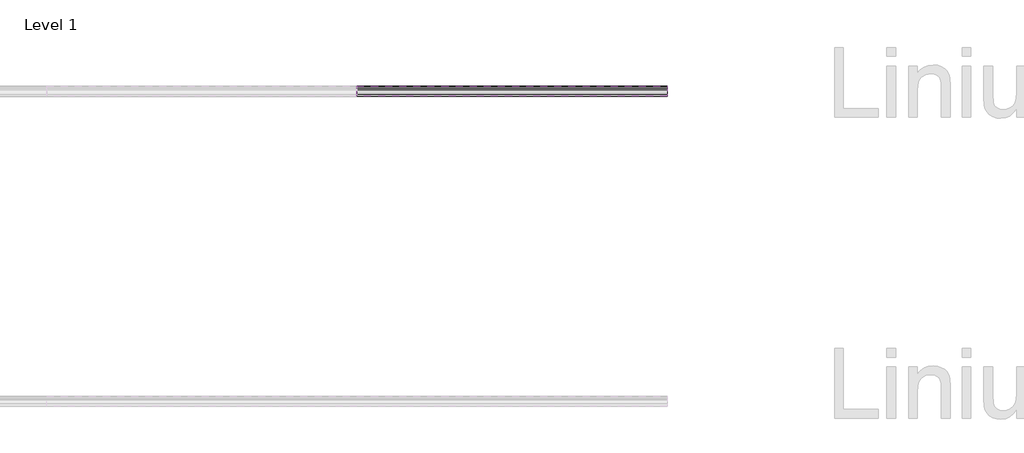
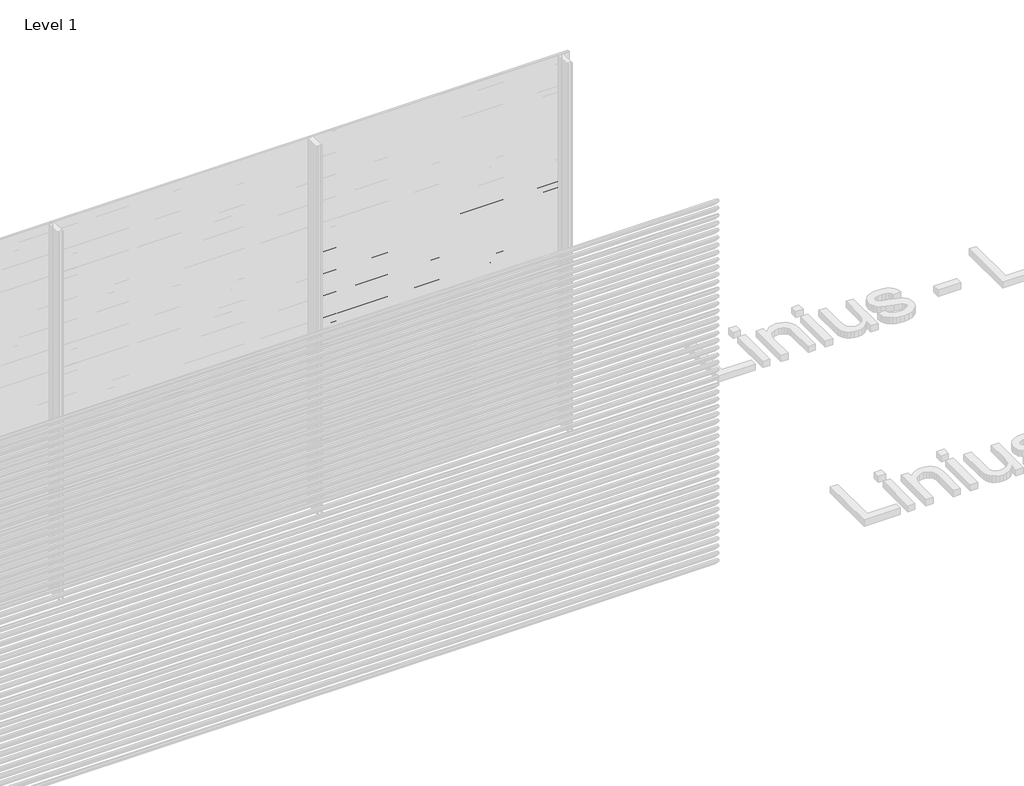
# One storey, part 46 of 153: 33 proxies.
"""IFC4 building model written with IfcOpenShell, lengths in millimetres."""

from ifc_helpers import new_model, si_unit, point, frame, frame_2d, origin, place, context, project, spatial, polyline, circle_curve, trimmed, segment, composite_curve, outline, extrude, element, save

model = new_model("IFC4")

# Units and contexts
model_context = context("Model", 3, world=origin())
ifc_project = project(units=[si_unit("LENGTHUNIT", "METRE", prefix="MILLI")], contexts=[model_context])

# Site, building, storey
site = spatial("IfcSite", under=ifc_project)
building = spatial("IfcBuilding", under=site)
storey = spatial("IfcBuildingStorey", under=building, Name="Level 1", Elevation=0.0)

# Proxies
placement = place(None, origin())
element("IfcBuildingElementProxy", 1, Name="Wall Sweeps", at=placement, inside=storey, context=model_context, shape_type="SweptSolid", body=[
    extrude(outline(composite_curve([segment(polyline([(13985.0540136, 2040.0), (13999.874191, 2038.7034025), (14049.0540136, 1985.0102749), (14049.0540136, 1973.6108187)]), True, "CONTINUOUS"), segment(trimmed(circle_curve(frame_2d((14045.7883652, 1973.897153)), 3.2781774), [point((14049.0540136, 1973.6108187))], [point((14046.4639442, 1970.6893438))], False, "CARTESIAN"), True, "CONTINUOUS"), segment(polyline([(14046.4639442, 1970.6893438), (14034.1895723, 1971.6282758), (13985.0540136, 2025.2730773), (13985.0540136, 2040.0)]), True, "CONTINUOUS")], self_intersect=False), holes=[composite_curve([segment(polyline([(13999.1621773, 2037.2599659), (13986.5540136, 2038.3630372), (13986.5540136, 2025.856213), (14034.8952036, 1973.0786805), (14046.3312542, 1972.2038762)]), True, "CONTINUOUS"), segment(trimmed(circle_curve(frame_2d((14045.7883652, 1973.897153)), 1.7781774), [point((14046.3312542, 1972.2038762))], [point((14047.5540136, 1973.6864389))], True, "CARTESIAN"), True, "CONTINUOUS"), segment(polyline([(14047.5540136, 1973.6864389), (14047.5540136, 1984.4271392), (13999.1621773, 2037.2599659)]), True, "CONTINUOUS")], self_intersect=False)]), frame((48966.6208096, 0.0, 0.0), z_axis=(1.0, 0.0, 0.0), x_axis=(0.0, 1.0, 0.0)), (0.0, 0.0, 1.0), 2000.0000001),
])
element("IfcBuildingElementProxy", 2, Name="Wall Sweeps", at=placement, inside=storey, context=model_context, shape_type="SweptSolid", body=[
    extrude(outline(composite_curve([segment(polyline([(13985.0540136, 1980.0), (13999.874191, 1978.7034025), (14049.0540136, 1925.0102749), (14049.0540136, 1913.6108187)]), True, "CONTINUOUS"), segment(trimmed(circle_curve(frame_2d((14045.7883652, 1913.897153)), 3.2781774), [point((14049.0540136, 1913.6108187))], [point((14046.4639442, 1910.6893438))], False, "CARTESIAN"), True, "CONTINUOUS"), segment(polyline([(14046.4639442, 1910.6893438), (14034.1895723, 1911.6282758), (13985.0540136, 1965.2730773), (13985.0540136, 1980.0)]), True, "CONTINUOUS")], self_intersect=False), holes=[composite_curve([segment(polyline([(13999.1621773, 1977.2599659), (13986.5540136, 1978.3630372), (13986.5540136, 1965.856213), (14034.8952036, 1913.0786805), (14046.3312542, 1912.2038762)]), True, "CONTINUOUS"), segment(trimmed(circle_curve(frame_2d((14045.7883652, 1913.897153)), 1.7781774), [point((14046.3312542, 1912.2038762))], [point((14047.5540136, 1913.6864389))], True, "CARTESIAN"), True, "CONTINUOUS"), segment(polyline([(14047.5540136, 1913.6864389), (14047.5540136, 1924.4271392), (13999.1621773, 1977.2599659)]), True, "CONTINUOUS")], self_intersect=False)]), frame((48966.6208096, 0.0, 0.0), z_axis=(1.0, 0.0, 0.0), x_axis=(0.0, 1.0, 0.0)), (0.0, 0.0, 1.0), 2000.0000001),
])
element("IfcBuildingElementProxy", 3, Name="Wall Sweeps", at=placement, inside=storey, context=model_context, shape_type="SweptSolid", body=[
    extrude(outline(composite_curve([segment(polyline([(13985.0540136, 1920.0), (13999.874191, 1918.7034025), (14049.0540136, 1865.0102749), (14049.0540136, 1853.6108187)]), True, "CONTINUOUS"), segment(trimmed(circle_curve(frame_2d((14045.7883652, 1853.897153)), 3.2781774), [point((14049.0540136, 1853.6108187))], [point((14046.4639442, 1850.6893438))], False, "CARTESIAN"), True, "CONTINUOUS"), segment(polyline([(14046.4639442, 1850.6893438), (14034.1895723, 1851.6282758), (13985.0540136, 1905.2730773), (13985.0540136, 1920.0)]), True, "CONTINUOUS")], self_intersect=False), holes=[composite_curve([segment(polyline([(13999.1621773, 1917.2599659), (13986.5540136, 1918.3630372), (13986.5540136, 1905.856213), (14034.8952036, 1853.0786805), (14046.3312542, 1852.2038762)]), True, "CONTINUOUS"), segment(trimmed(circle_curve(frame_2d((14045.7883652, 1853.897153)), 1.7781774), [point((14046.3312542, 1852.2038762))], [point((14047.5540136, 1853.6864389))], True, "CARTESIAN"), True, "CONTINUOUS"), segment(polyline([(14047.5540136, 1853.6864389), (14047.5540136, 1864.4271392), (13999.1621773, 1917.2599659)]), True, "CONTINUOUS")], self_intersect=False)]), frame((48966.6208096, 0.0, 0.0), z_axis=(1.0, 0.0, 0.0), x_axis=(0.0, 1.0, 0.0)), (0.0, 0.0, 1.0), 2000.0000001),
])
element("IfcBuildingElementProxy", 4, Name="Wall Sweeps", at=placement, inside=storey, context=model_context, shape_type="SweptSolid", body=[
    extrude(outline(composite_curve([segment(polyline([(13985.0540136, 1860.0), (13999.874191, 1858.7034025), (14049.0540136, 1805.0102749), (14049.0540136, 1793.6108187)]), True, "CONTINUOUS"), segment(trimmed(circle_curve(frame_2d((14045.7883652, 1793.897153)), 3.2781774), [point((14049.0540136, 1793.6108187))], [point((14046.4639442, 1790.6893438))], False, "CARTESIAN"), True, "CONTINUOUS"), segment(polyline([(14046.4639442, 1790.6893438), (14034.1895723, 1791.6282758), (13985.0540136, 1845.2730773), (13985.0540136, 1860.0)]), True, "CONTINUOUS")], self_intersect=False), holes=[composite_curve([segment(polyline([(13999.1621773, 1857.2599659), (13986.5540136, 1858.3630372), (13986.5540136, 1845.856213), (14034.8952036, 1793.0786805), (14046.3312542, 1792.2038762)]), True, "CONTINUOUS"), segment(trimmed(circle_curve(frame_2d((14045.7883652, 1793.897153)), 1.7781774), [point((14046.3312542, 1792.2038762))], [point((14047.5540136, 1793.6864389))], True, "CARTESIAN"), True, "CONTINUOUS"), segment(polyline([(14047.5540136, 1793.6864389), (14047.5540136, 1804.4271392), (13999.1621773, 1857.2599659)]), True, "CONTINUOUS")], self_intersect=False)]), frame((48966.6208096, 0.0, 0.0), z_axis=(1.0, 0.0, 0.0), x_axis=(0.0, 1.0, 0.0)), (0.0, 0.0, 1.0), 2000.0000001),
])
element("IfcBuildingElementProxy", 5, Name="Wall Sweeps", at=placement, inside=storey, context=model_context, shape_type="SweptSolid", body=[
    extrude(outline(composite_curve([segment(polyline([(13985.0540136, 1800.0), (13999.874191, 1798.7034025), (14049.0540136, 1745.0102749), (14049.0540136, 1733.6108187)]), True, "CONTINUOUS"), segment(trimmed(circle_curve(frame_2d((14045.7883652, 1733.897153)), 3.2781774), [point((14049.0540136, 1733.6108187))], [point((14046.4639442, 1730.6893438))], False, "CARTESIAN"), True, "CONTINUOUS"), segment(polyline([(14046.4639442, 1730.6893438), (14034.1895723, 1731.6282758), (13985.0540136, 1785.2730773), (13985.0540136, 1800.0)]), True, "CONTINUOUS")], self_intersect=False), holes=[composite_curve([segment(polyline([(13999.1621773, 1797.2599659), (13986.5540136, 1798.3630372), (13986.5540136, 1785.856213), (14034.8952036, 1733.0786805), (14046.3312542, 1732.2038762)]), True, "CONTINUOUS"), segment(trimmed(circle_curve(frame_2d((14045.7883652, 1733.897153)), 1.7781774), [point((14046.3312542, 1732.2038762))], [point((14047.5540136, 1733.6864389))], True, "CARTESIAN"), True, "CONTINUOUS"), segment(polyline([(14047.5540136, 1733.6864389), (14047.5540136, 1744.4271392), (13999.1621773, 1797.2599659)]), True, "CONTINUOUS")], self_intersect=False)]), frame((48966.6208096, 0.0, 0.0), z_axis=(1.0, 0.0, 0.0), x_axis=(0.0, 1.0, 0.0)), (0.0, 0.0, 1.0), 2000.0000001),
])
element("IfcBuildingElementProxy", 6, Name="Wall Sweeps", at=placement, inside=storey, context=model_context, shape_type="SweptSolid", body=[
    extrude(outline(composite_curve([segment(polyline([(13985.0540136, 1740.0), (13999.874191, 1738.7034025), (14049.0540136, 1685.0102749), (14049.0540136, 1673.6108187)]), True, "CONTINUOUS"), segment(trimmed(circle_curve(frame_2d((14045.7883652, 1673.897153)), 3.2781774), [point((14049.0540136, 1673.6108187))], [point((14046.4639442, 1670.6893438))], False, "CARTESIAN"), True, "CONTINUOUS"), segment(polyline([(14046.4639442, 1670.6893438), (14034.1895723, 1671.6282758), (13985.0540136, 1725.2730773), (13985.0540136, 1740.0)]), True, "CONTINUOUS")], self_intersect=False), holes=[composite_curve([segment(polyline([(13999.1621773, 1737.2599659), (13986.5540136, 1738.3630372), (13986.5540136, 1725.856213), (14034.8952036, 1673.0786805), (14046.3312542, 1672.2038762)]), True, "CONTINUOUS"), segment(trimmed(circle_curve(frame_2d((14045.7883652, 1673.897153)), 1.7781774), [point((14046.3312542, 1672.2038762))], [point((14047.5540136, 1673.6864389))], True, "CARTESIAN"), True, "CONTINUOUS"), segment(polyline([(14047.5540136, 1673.6864389), (14047.5540136, 1684.4271392), (13999.1621773, 1737.2599659)]), True, "CONTINUOUS")], self_intersect=False)]), frame((48966.6208096, 0.0, 0.0), z_axis=(1.0, 0.0, 0.0), x_axis=(0.0, 1.0, 0.0)), (0.0, 0.0, 1.0), 2000.0000001),
])
element("IfcBuildingElementProxy", 7, Name="Wall Sweeps", at=placement, inside=storey, context=model_context, shape_type="SweptSolid", body=[
    extrude(outline(composite_curve([segment(polyline([(13985.0540136, 1680.0), (13999.874191, 1678.7034025), (14049.0540136, 1625.0102749), (14049.0540136, 1613.6108187)]), True, "CONTINUOUS"), segment(trimmed(circle_curve(frame_2d((14045.7883652, 1613.897153)), 3.2781774), [point((14049.0540136, 1613.6108187))], [point((14046.4639442, 1610.6893438))], False, "CARTESIAN"), True, "CONTINUOUS"), segment(polyline([(14046.4639442, 1610.6893438), (14034.1895723, 1611.6282758), (13985.0540136, 1665.2730773), (13985.0540136, 1680.0)]), True, "CONTINUOUS")], self_intersect=False), holes=[composite_curve([segment(polyline([(13999.1621773, 1677.2599659), (13986.5540136, 1678.3630372), (13986.5540136, 1665.856213), (14034.8952036, 1613.0786805), (14046.3312542, 1612.2038762)]), True, "CONTINUOUS"), segment(trimmed(circle_curve(frame_2d((14045.7883652, 1613.897153)), 1.7781774), [point((14046.3312542, 1612.2038762))], [point((14047.5540136, 1613.6864389))], True, "CARTESIAN"), True, "CONTINUOUS"), segment(polyline([(14047.5540136, 1613.6864389), (14047.5540136, 1624.4271392), (13999.1621773, 1677.2599659)]), True, "CONTINUOUS")], self_intersect=False)]), frame((48966.6208096, 0.0, 0.0), z_axis=(1.0, 0.0, 0.0), x_axis=(0.0, 1.0, 0.0)), (0.0, 0.0, 1.0), 2000.0000001),
])
element("IfcBuildingElementProxy", 8, Name="Wall Sweeps", at=placement, inside=storey, context=model_context, shape_type="SweptSolid", body=[
    extrude(outline(composite_curve([segment(polyline([(13985.0540136, 1620.0), (13999.874191, 1618.7034025), (14049.0540136, 1565.0102749), (14049.0540136, 1553.6108187)]), True, "CONTINUOUS"), segment(trimmed(circle_curve(frame_2d((14045.7883652, 1553.897153)), 3.2781774), [point((14049.0540136, 1553.6108187))], [point((14046.4639442, 1550.6893438))], False, "CARTESIAN"), True, "CONTINUOUS"), segment(polyline([(14046.4639442, 1550.6893438), (14034.1895723, 1551.6282758), (13985.0540136, 1605.2730773), (13985.0540136, 1620.0)]), True, "CONTINUOUS")], self_intersect=False), holes=[composite_curve([segment(polyline([(13999.1621773, 1617.2599659), (13986.5540136, 1618.3630372), (13986.5540136, 1605.856213), (14034.8952036, 1553.0786805), (14046.3312542, 1552.2038762)]), True, "CONTINUOUS"), segment(trimmed(circle_curve(frame_2d((14045.7883652, 1553.897153)), 1.7781774), [point((14046.3312542, 1552.2038762))], [point((14047.5540136, 1553.6864389))], True, "CARTESIAN"), True, "CONTINUOUS"), segment(polyline([(14047.5540136, 1553.6864389), (14047.5540136, 1564.4271392), (13999.1621773, 1617.2599659)]), True, "CONTINUOUS")], self_intersect=False)]), frame((48966.6208096, 0.0, 0.0), z_axis=(1.0, 0.0, 0.0), x_axis=(0.0, 1.0, 0.0)), (0.0, 0.0, 1.0), 2000.0000001),
])
element("IfcBuildingElementProxy", 9, Name="Wall Sweeps", at=placement, inside=storey, context=model_context, shape_type="SweptSolid", body=[
    extrude(outline(composite_curve([segment(polyline([(13985.0540136, 1560.0), (13999.874191, 1558.7034025), (14049.0540136, 1505.0102749), (14049.0540136, 1493.6108187)]), True, "CONTINUOUS"), segment(trimmed(circle_curve(frame_2d((14045.7883652, 1493.897153)), 3.2781774), [point((14049.0540136, 1493.6108187))], [point((14046.4639442, 1490.6893438))], False, "CARTESIAN"), True, "CONTINUOUS"), segment(polyline([(14046.4639442, 1490.6893438), (14034.1895723, 1491.6282758), (13985.0540136, 1545.2730773), (13985.0540136, 1560.0)]), True, "CONTINUOUS")], self_intersect=False), holes=[composite_curve([segment(polyline([(13999.1621773, 1557.2599659), (13986.5540136, 1558.3630372), (13986.5540136, 1545.856213), (14034.8952036, 1493.0786805), (14046.3312542, 1492.2038762)]), True, "CONTINUOUS"), segment(trimmed(circle_curve(frame_2d((14045.7883652, 1493.897153)), 1.7781774), [point((14046.3312542, 1492.2038762))], [point((14047.5540136, 1493.6864389))], True, "CARTESIAN"), True, "CONTINUOUS"), segment(polyline([(14047.5540136, 1493.6864389), (14047.5540136, 1504.4271392), (13999.1621773, 1557.2599659)]), True, "CONTINUOUS")], self_intersect=False)]), frame((48966.6208096, 0.0, 0.0), z_axis=(1.0, 0.0, 0.0), x_axis=(0.0, 1.0, 0.0)), (0.0, 0.0, 1.0), 2000.0000001),
])
element("IfcBuildingElementProxy", 10, Name="Wall Sweeps", at=placement, inside=storey, context=model_context, shape_type="SweptSolid", body=[
    extrude(outline(composite_curve([segment(polyline([(13985.0540136, 1500.0), (13999.874191, 1498.7034025), (14049.0540136, 1445.0102749), (14049.0540136, 1433.6108187)]), True, "CONTINUOUS"), segment(trimmed(circle_curve(frame_2d((14045.7883652, 1433.897153)), 3.2781774), [point((14049.0540136, 1433.6108187))], [point((14046.4639442, 1430.6893438))], False, "CARTESIAN"), True, "CONTINUOUS"), segment(polyline([(14046.4639442, 1430.6893438), (14034.1895723, 1431.6282758), (13985.0540136, 1485.2730773), (13985.0540136, 1500.0)]), True, "CONTINUOUS")], self_intersect=False), holes=[composite_curve([segment(polyline([(13999.1621773, 1497.2599659), (13986.5540136, 1498.3630372), (13986.5540136, 1485.856213), (14034.8952036, 1433.0786805), (14046.3312542, 1432.2038762)]), True, "CONTINUOUS"), segment(trimmed(circle_curve(frame_2d((14045.7883652, 1433.897153)), 1.7781774), [point((14046.3312542, 1432.2038762))], [point((14047.5540136, 1433.6864389))], True, "CARTESIAN"), True, "CONTINUOUS"), segment(polyline([(14047.5540136, 1433.6864389), (14047.5540136, 1444.4271392), (13999.1621773, 1497.2599659)]), True, "CONTINUOUS")], self_intersect=False)]), frame((48966.6208096, 0.0, 0.0), z_axis=(1.0, 0.0, 0.0), x_axis=(0.0, 1.0, 0.0)), (0.0, 0.0, 1.0), 2000.0000001),
])
element("IfcBuildingElementProxy", 11, Name="Wall Sweeps", at=placement, inside=storey, context=model_context, shape_type="SweptSolid", body=[
    extrude(outline(composite_curve([segment(polyline([(13985.0540136, 1440.0), (13999.874191, 1438.7034025), (14049.0540136, 1385.0102749), (14049.0540136, 1373.6108187)]), True, "CONTINUOUS"), segment(trimmed(circle_curve(frame_2d((14045.7883652, 1373.897153)), 3.2781774), [point((14049.0540136, 1373.6108187))], [point((14046.4639442, 1370.6893438))], False, "CARTESIAN"), True, "CONTINUOUS"), segment(polyline([(14046.4639442, 1370.6893438), (14034.1895723, 1371.6282758), (13985.0540136, 1425.2730773), (13985.0540136, 1440.0)]), True, "CONTINUOUS")], self_intersect=False), holes=[composite_curve([segment(polyline([(13999.1621773, 1437.2599659), (13986.5540136, 1438.3630372), (13986.5540136, 1425.856213), (14034.8952036, 1373.0786805), (14046.3312542, 1372.2038762)]), True, "CONTINUOUS"), segment(trimmed(circle_curve(frame_2d((14045.7883652, 1373.897153)), 1.7781774), [point((14046.3312542, 1372.2038762))], [point((14047.5540136, 1373.6864389))], True, "CARTESIAN"), True, "CONTINUOUS"), segment(polyline([(14047.5540136, 1373.6864389), (14047.5540136, 1384.4271392), (13999.1621773, 1437.2599659)]), True, "CONTINUOUS")], self_intersect=False)]), frame((48966.6208096, 0.0, 0.0), z_axis=(1.0, 0.0, 0.0), x_axis=(0.0, 1.0, 0.0)), (0.0, 0.0, 1.0), 2000.0000001),
])
element("IfcBuildingElementProxy", 12, Name="Wall Sweeps", at=placement, inside=storey, context=model_context, shape_type="SweptSolid", body=[
    extrude(outline(composite_curve([segment(polyline([(13985.0540136, 1380.0), (13999.874191, 1378.7034025), (14049.0540136, 1325.0102749), (14049.0540136, 1313.6108187)]), True, "CONTINUOUS"), segment(trimmed(circle_curve(frame_2d((14045.7883652, 1313.897153)), 3.2781774), [point((14049.0540136, 1313.6108187))], [point((14046.4639442, 1310.6893438))], False, "CARTESIAN"), True, "CONTINUOUS"), segment(polyline([(14046.4639442, 1310.6893438), (14034.1895723, 1311.6282758), (13985.0540136, 1365.2730773), (13985.0540136, 1380.0)]), True, "CONTINUOUS")], self_intersect=False), holes=[composite_curve([segment(polyline([(13999.1621773, 1377.2599659), (13986.5540136, 1378.3630372), (13986.5540136, 1365.856213), (14034.8952036, 1313.0786805), (14046.3312542, 1312.2038762)]), True, "CONTINUOUS"), segment(trimmed(circle_curve(frame_2d((14045.7883652, 1313.897153)), 1.7781774), [point((14046.3312542, 1312.2038762))], [point((14047.5540136, 1313.6864389))], True, "CARTESIAN"), True, "CONTINUOUS"), segment(polyline([(14047.5540136, 1313.6864389), (14047.5540136, 1324.4271392), (13999.1621773, 1377.2599659)]), True, "CONTINUOUS")], self_intersect=False)]), frame((48966.6208096, 0.0, 0.0), z_axis=(1.0, 0.0, 0.0), x_axis=(0.0, 1.0, 0.0)), (0.0, 0.0, 1.0), 2000.0000001),
])
element("IfcBuildingElementProxy", 13, Name="Wall Sweeps", at=placement, inside=storey, context=model_context, shape_type="SweptSolid", body=[
    extrude(outline(composite_curve([segment(polyline([(13985.0540136, 1320.0), (13999.874191, 1318.7034025), (14049.0540136, 1265.0102749), (14049.0540136, 1253.6108187)]), True, "CONTINUOUS"), segment(trimmed(circle_curve(frame_2d((14045.7883652, 1253.897153)), 3.2781774), [point((14049.0540136, 1253.6108187))], [point((14046.4639442, 1250.6893438))], False, "CARTESIAN"), True, "CONTINUOUS"), segment(polyline([(14046.4639442, 1250.6893438), (14034.1895723, 1251.6282758), (13985.0540136, 1305.2730773), (13985.0540136, 1320.0)]), True, "CONTINUOUS")], self_intersect=False), holes=[composite_curve([segment(polyline([(13999.1621773, 1317.2599659), (13986.5540136, 1318.3630372), (13986.5540136, 1305.856213), (14034.8952036, 1253.0786805), (14046.3312542, 1252.2038762)]), True, "CONTINUOUS"), segment(trimmed(circle_curve(frame_2d((14045.7883652, 1253.897153)), 1.7781774), [point((14046.3312542, 1252.2038762))], [point((14047.5540136, 1253.6864389))], True, "CARTESIAN"), True, "CONTINUOUS"), segment(polyline([(14047.5540136, 1253.6864389), (14047.5540136, 1264.4271392), (13999.1621773, 1317.2599659)]), True, "CONTINUOUS")], self_intersect=False)]), frame((48966.6208096, 0.0, 0.0), z_axis=(1.0, 0.0, 0.0), x_axis=(0.0, 1.0, 0.0)), (0.0, 0.0, 1.0), 2000.0000001),
])
element("IfcBuildingElementProxy", 14, Name="Wall Sweeps", at=placement, inside=storey, context=model_context, shape_type="SweptSolid", body=[
    extrude(outline(composite_curve([segment(polyline([(13985.0540136, 1260.0), (13999.874191, 1258.7034025), (14049.0540136, 1205.0102749), (14049.0540136, 1193.6108187)]), True, "CONTINUOUS"), segment(trimmed(circle_curve(frame_2d((14045.7883652, 1193.897153)), 3.2781774), [point((14049.0540136, 1193.6108187))], [point((14046.4639442, 1190.6893438))], False, "CARTESIAN"), True, "CONTINUOUS"), segment(polyline([(14046.4639442, 1190.6893438), (14034.1895723, 1191.6282758), (13985.0540136, 1245.2730773), (13985.0540136, 1260.0)]), True, "CONTINUOUS")], self_intersect=False), holes=[composite_curve([segment(polyline([(13999.1621773, 1257.2599659), (13986.5540136, 1258.3630372), (13986.5540136, 1245.856213), (14034.8952036, 1193.0786805), (14046.3312542, 1192.2038762)]), True, "CONTINUOUS"), segment(trimmed(circle_curve(frame_2d((14045.7883652, 1193.897153)), 1.7781774), [point((14046.3312542, 1192.2038762))], [point((14047.5540136, 1193.6864389))], True, "CARTESIAN"), True, "CONTINUOUS"), segment(polyline([(14047.5540136, 1193.6864389), (14047.5540136, 1204.4271392), (13999.1621773, 1257.2599659)]), True, "CONTINUOUS")], self_intersect=False)]), frame((48966.6208096, 0.0, 0.0), z_axis=(1.0, 0.0, 0.0), x_axis=(0.0, 1.0, 0.0)), (0.0, 0.0, 1.0), 2000.0000001),
])
element("IfcBuildingElementProxy", 15, Name="Wall Sweeps", at=placement, inside=storey, context=model_context, shape_type="SweptSolid", body=[
    extrude(outline(composite_curve([segment(polyline([(13985.0540136, 1200.0), (13999.874191, 1198.7034025), (14049.0540136, 1145.0102749), (14049.0540136, 1133.6108187)]), True, "CONTINUOUS"), segment(trimmed(circle_curve(frame_2d((14045.7883652, 1133.897153)), 3.2781774), [point((14049.0540136, 1133.6108187))], [point((14046.4639442, 1130.6893438))], False, "CARTESIAN"), True, "CONTINUOUS"), segment(polyline([(14046.4639442, 1130.6893438), (14034.1895723, 1131.6282758), (13985.0540136, 1185.2730773), (13985.0540136, 1200.0)]), True, "CONTINUOUS")], self_intersect=False), holes=[composite_curve([segment(polyline([(13999.1621773, 1197.2599659), (13986.5540136, 1198.3630372), (13986.5540136, 1185.856213), (14034.8952036, 1133.0786805), (14046.3312542, 1132.2038762)]), True, "CONTINUOUS"), segment(trimmed(circle_curve(frame_2d((14045.7883652, 1133.897153)), 1.7781774), [point((14046.3312542, 1132.2038762))], [point((14047.5540136, 1133.6864389))], True, "CARTESIAN"), True, "CONTINUOUS"), segment(polyline([(14047.5540136, 1133.6864389), (14047.5540136, 1144.4271392), (13999.1621773, 1197.2599659)]), True, "CONTINUOUS")], self_intersect=False)]), frame((48966.6208096, 0.0, 0.0), z_axis=(1.0, 0.0, 0.0), x_axis=(0.0, 1.0, 0.0)), (0.0, 0.0, 1.0), 2000.0000001),
])
element("IfcBuildingElementProxy", 16, Name="Wall Sweeps", at=placement, inside=storey, context=model_context, shape_type="SweptSolid", body=[
    extrude(outline(composite_curve([segment(polyline([(13985.0540136, 1140.0), (13999.874191, 1138.7034025), (14049.0540136, 1085.0102749), (14049.0540136, 1073.6108187)]), True, "CONTINUOUS"), segment(trimmed(circle_curve(frame_2d((14045.7883652, 1073.897153)), 3.2781774), [point((14049.0540136, 1073.6108187))], [point((14046.4639442, 1070.6893438))], False, "CARTESIAN"), True, "CONTINUOUS"), segment(polyline([(14046.4639442, 1070.6893438), (14034.1895723, 1071.6282758), (13985.0540136, 1125.2730773), (13985.0540136, 1140.0)]), True, "CONTINUOUS")], self_intersect=False), holes=[composite_curve([segment(polyline([(13999.1621773, 1137.2599659), (13986.5540136, 1138.3630372), (13986.5540136, 1125.856213), (14034.8952036, 1073.0786805), (14046.3312542, 1072.2038762)]), True, "CONTINUOUS"), segment(trimmed(circle_curve(frame_2d((14045.7883652, 1073.897153)), 1.7781774), [point((14046.3312542, 1072.2038762))], [point((14047.5540136, 1073.6864389))], True, "CARTESIAN"), True, "CONTINUOUS"), segment(polyline([(14047.5540136, 1073.6864389), (14047.5540136, 1084.4271392), (13999.1621773, 1137.2599659)]), True, "CONTINUOUS")], self_intersect=False)]), frame((48966.6208096, 0.0, 0.0), z_axis=(1.0, 0.0, 0.0), x_axis=(0.0, 1.0, 0.0)), (0.0, 0.0, 1.0), 2000.0000001),
])
element("IfcBuildingElementProxy", 17, Name="Wall Sweeps", at=placement, inside=storey, context=model_context, shape_type="SweptSolid", body=[
    extrude(outline(composite_curve([segment(polyline([(13985.0540136, 1080.0), (13999.874191, 1078.7034025), (14049.0540136, 1025.0102749), (14049.0540136, 1013.6108187)]), True, "CONTINUOUS"), segment(trimmed(circle_curve(frame_2d((14045.7883652, 1013.897153)), 3.2781774), [point((14049.0540136, 1013.6108187))], [point((14046.4639442, 1010.6893438))], False, "CARTESIAN"), True, "CONTINUOUS"), segment(polyline([(14046.4639442, 1010.6893438), (14034.1895723, 1011.6282758), (13985.0540136, 1065.2730773), (13985.0540136, 1080.0)]), True, "CONTINUOUS")], self_intersect=False), holes=[composite_curve([segment(polyline([(13999.1621773, 1077.2599659), (13986.5540136, 1078.3630372), (13986.5540136, 1065.856213), (14034.8952036, 1013.0786805), (14046.3312542, 1012.2038762)]), True, "CONTINUOUS"), segment(trimmed(circle_curve(frame_2d((14045.7883652, 1013.897153)), 1.7781774), [point((14046.3312542, 1012.2038762))], [point((14047.5540136, 1013.6864389))], True, "CARTESIAN"), True, "CONTINUOUS"), segment(polyline([(14047.5540136, 1013.6864389), (14047.5540136, 1024.4271392), (13999.1621773, 1077.2599659)]), True, "CONTINUOUS")], self_intersect=False)]), frame((48966.6208096, 0.0, 0.0), z_axis=(1.0, 0.0, 0.0), x_axis=(0.0, 1.0, 0.0)), (0.0, 0.0, 1.0), 2000.0000001),
])
element("IfcBuildingElementProxy", 18, Name="Wall Sweeps", at=placement, inside=storey, context=model_context, shape_type="SweptSolid", body=[
    extrude(outline(composite_curve([segment(polyline([(13985.0540136, 1020.0), (13999.874191, 1018.7034025), (14049.0540136, 965.0102749), (14049.0540136, 953.6108187)]), True, "CONTINUOUS"), segment(trimmed(circle_curve(frame_2d((14045.7883652, 953.897153)), 3.2781774), [point((14049.0540136, 953.6108187))], [point((14046.4639442, 950.6893438))], False, "CARTESIAN"), True, "CONTINUOUS"), segment(polyline([(14046.4639442, 950.6893438), (14034.1895723, 951.6282758), (13985.0540136, 1005.2730773), (13985.0540136, 1020.0)]), True, "CONTINUOUS")], self_intersect=False), holes=[composite_curve([segment(polyline([(13999.1621773, 1017.2599659), (13986.5540136, 1018.3630372), (13986.5540136, 1005.856213), (14034.8952036, 953.0786805), (14046.3312542, 952.2038762)]), True, "CONTINUOUS"), segment(trimmed(circle_curve(frame_2d((14045.7883652, 953.897153)), 1.7781774), [point((14046.3312542, 952.2038762))], [point((14047.5540136, 953.6864389))], True, "CARTESIAN"), True, "CONTINUOUS"), segment(polyline([(14047.5540136, 953.6864389), (14047.5540136, 964.4271392), (13999.1621773, 1017.2599659)]), True, "CONTINUOUS")], self_intersect=False)]), frame((48966.6208096, 0.0, 0.0), z_axis=(1.0, 0.0, 0.0), x_axis=(0.0, 1.0, 0.0)), (0.0, 0.0, 1.0), 2000.0000001),
])
element("IfcBuildingElementProxy", 19, Name="Wall Sweeps", at=placement, inside=storey, context=model_context, shape_type="SweptSolid", body=[
    extrude(outline(composite_curve([segment(polyline([(13985.0540136, 960.0), (13999.874191, 958.7034025), (14049.0540136, 905.0102749), (14049.0540136, 893.6108187)]), True, "CONTINUOUS"), segment(trimmed(circle_curve(frame_2d((14045.7883652, 893.897153)), 3.2781774), [point((14049.0540136, 893.6108187))], [point((14046.4639442, 890.6893438))], False, "CARTESIAN"), True, "CONTINUOUS"), segment(polyline([(14046.4639442, 890.6893438), (14034.1895723, 891.6282758), (13985.0540136, 945.2730773), (13985.0540136, 960.0)]), True, "CONTINUOUS")], self_intersect=False), holes=[composite_curve([segment(polyline([(13999.1621773, 957.2599659), (13986.5540136, 958.3630372), (13986.5540136, 945.856213), (14034.8952036, 893.0786805), (14046.3312542, 892.2038762)]), True, "CONTINUOUS"), segment(trimmed(circle_curve(frame_2d((14045.7883652, 893.897153)), 1.7781774), [point((14046.3312542, 892.2038762))], [point((14047.5540136, 893.6864389))], True, "CARTESIAN"), True, "CONTINUOUS"), segment(polyline([(14047.5540136, 893.6864389), (14047.5540136, 904.4271392), (13999.1621773, 957.2599659)]), True, "CONTINUOUS")], self_intersect=False)]), frame((48966.6208096, 0.0, 0.0), z_axis=(1.0, 0.0, 0.0), x_axis=(0.0, 1.0, 0.0)), (0.0, 0.0, 1.0), 2000.0000001),
])
element("IfcBuildingElementProxy", 20, Name="Wall Sweeps", at=placement, inside=storey, context=model_context, shape_type="SweptSolid", body=[
    extrude(outline(composite_curve([segment(polyline([(13985.0540136, 900.0), (13999.874191, 898.7034025), (14049.0540136, 845.0102749), (14049.0540136, 833.6108187)]), True, "CONTINUOUS"), segment(trimmed(circle_curve(frame_2d((14045.7883652, 833.897153)), 3.2781774), [point((14049.0540136, 833.6108187))], [point((14046.4639442, 830.6893438))], False, "CARTESIAN"), True, "CONTINUOUS"), segment(polyline([(14046.4639442, 830.6893438), (14034.1895723, 831.6282758), (13985.0540136, 885.2730773), (13985.0540136, 900.0)]), True, "CONTINUOUS")], self_intersect=False), holes=[composite_curve([segment(polyline([(13999.1621773, 897.2599659), (13986.5540136, 898.3630372), (13986.5540136, 885.856213), (14034.8952036, 833.0786805), (14046.3312542, 832.2038762)]), True, "CONTINUOUS"), segment(trimmed(circle_curve(frame_2d((14045.7883652, 833.897153)), 1.7781774), [point((14046.3312542, 832.2038762))], [point((14047.5540136, 833.6864389))], True, "CARTESIAN"), True, "CONTINUOUS"), segment(polyline([(14047.5540136, 833.6864389), (14047.5540136, 844.4271392), (13999.1621773, 897.2599659)]), True, "CONTINUOUS")], self_intersect=False)]), frame((48966.6208096, 0.0, 0.0), z_axis=(1.0, 0.0, 0.0), x_axis=(0.0, 1.0, 0.0)), (0.0, 0.0, 1.0), 2000.0000001),
])
element("IfcBuildingElementProxy", 21, Name="Wall Sweeps", at=placement, inside=storey, context=model_context, shape_type="SweptSolid", body=[
    extrude(outline(composite_curve([segment(polyline([(13985.0540136, 840.0), (13999.874191, 838.7034025), (14049.0540136, 785.0102749), (14049.0540136, 773.6108187)]), True, "CONTINUOUS"), segment(trimmed(circle_curve(frame_2d((14045.7883652, 773.897153)), 3.2781774), [point((14049.0540136, 773.6108187))], [point((14046.4639442, 770.6893438))], False, "CARTESIAN"), True, "CONTINUOUS"), segment(polyline([(14046.4639442, 770.6893438), (14034.1895723, 771.6282758), (13985.0540136, 825.2730773), (13985.0540136, 840.0)]), True, "CONTINUOUS")], self_intersect=False), holes=[composite_curve([segment(polyline([(13999.1621773, 837.2599659), (13986.5540136, 838.3630372), (13986.5540136, 825.856213), (14034.8952036, 773.0786805), (14046.3312542, 772.2038762)]), True, "CONTINUOUS"), segment(trimmed(circle_curve(frame_2d((14045.7883652, 773.897153)), 1.7781774), [point((14046.3312542, 772.2038762))], [point((14047.5540136, 773.6864389))], True, "CARTESIAN"), True, "CONTINUOUS"), segment(polyline([(14047.5540136, 773.6864389), (14047.5540136, 784.4271392), (13999.1621773, 837.2599659)]), True, "CONTINUOUS")], self_intersect=False)]), frame((48966.6208096, 0.0, 0.0), z_axis=(1.0, 0.0, 0.0), x_axis=(0.0, 1.0, 0.0)), (0.0, 0.0, 1.0), 2000.0000001),
])
element("IfcBuildingElementProxy", 22, Name="Wall Sweeps", at=placement, inside=storey, context=model_context, shape_type="SweptSolid", body=[
    extrude(outline(composite_curve([segment(polyline([(13985.0540136, 780.0), (13999.874191, 778.7034025), (14049.0540136, 725.0102749), (14049.0540136, 713.6108187)]), True, "CONTINUOUS"), segment(trimmed(circle_curve(frame_2d((14045.7883652, 713.897153)), 3.2781774), [point((14049.0540136, 713.6108187))], [point((14046.4639442, 710.6893438))], False, "CARTESIAN"), True, "CONTINUOUS"), segment(polyline([(14046.4639442, 710.6893438), (14034.1895723, 711.6282758), (13985.0540136, 765.2730773), (13985.0540136, 780.0)]), True, "CONTINUOUS")], self_intersect=False), holes=[composite_curve([segment(polyline([(13999.1621773, 777.2599659), (13986.5540136, 778.3630372), (13986.5540136, 765.856213), (14034.8952036, 713.0786805), (14046.3312542, 712.2038762)]), True, "CONTINUOUS"), segment(trimmed(circle_curve(frame_2d((14045.7883652, 713.897153)), 1.7781774), [point((14046.3312542, 712.2038762))], [point((14047.5540136, 713.6864389))], True, "CARTESIAN"), True, "CONTINUOUS"), segment(polyline([(14047.5540136, 713.6864389), (14047.5540136, 724.4271392), (13999.1621773, 777.2599659)]), True, "CONTINUOUS")], self_intersect=False)]), frame((48966.6208096, 0.0, 0.0), z_axis=(1.0, 0.0, 0.0), x_axis=(0.0, 1.0, 0.0)), (0.0, 0.0, 1.0), 2000.0000001),
])
element("IfcBuildingElementProxy", 23, Name="Wall Sweeps", at=placement, inside=storey, context=model_context, shape_type="SweptSolid", body=[
    extrude(outline(composite_curve([segment(polyline([(13985.0540136, 720.0), (13999.874191, 718.7034025), (14049.0540136, 665.0102749), (14049.0540136, 653.6108187)]), True, "CONTINUOUS"), segment(trimmed(circle_curve(frame_2d((14045.7883652, 653.897153)), 3.2781774), [point((14049.0540136, 653.6108187))], [point((14046.4639442, 650.6893438))], False, "CARTESIAN"), True, "CONTINUOUS"), segment(polyline([(14046.4639442, 650.6893438), (14034.1895723, 651.6282758), (13985.0540136, 705.2730773), (13985.0540136, 720.0)]), True, "CONTINUOUS")], self_intersect=False), holes=[composite_curve([segment(polyline([(13999.1621773, 717.2599659), (13986.5540136, 718.3630372), (13986.5540136, 705.856213), (14034.8952036, 653.0786805), (14046.3312542, 652.2038762)]), True, "CONTINUOUS"), segment(trimmed(circle_curve(frame_2d((14045.7883652, 653.897153)), 1.7781774), [point((14046.3312542, 652.2038762))], [point((14047.5540136, 653.6864389))], True, "CARTESIAN"), True, "CONTINUOUS"), segment(polyline([(14047.5540136, 653.6864389), (14047.5540136, 664.4271392), (13999.1621773, 717.2599659)]), True, "CONTINUOUS")], self_intersect=False)]), frame((48966.6208096, 0.0, 0.0), z_axis=(1.0, 0.0, 0.0), x_axis=(0.0, 1.0, 0.0)), (0.0, 0.0, 1.0), 2000.0000001),
])
element("IfcBuildingElementProxy", 24, Name="Wall Sweeps", at=placement, inside=storey, context=model_context, shape_type="SweptSolid", body=[
    extrude(outline(composite_curve([segment(polyline([(13985.0540136, 660.0), (13999.874191, 658.7034025), (14049.0540136, 605.0102749), (14049.0540136, 593.6108187)]), True, "CONTINUOUS"), segment(trimmed(circle_curve(frame_2d((14045.7883652, 593.897153)), 3.2781774), [point((14049.0540136, 593.6108187))], [point((14046.4639442, 590.6893438))], False, "CARTESIAN"), True, "CONTINUOUS"), segment(polyline([(14046.4639442, 590.6893438), (14034.1895723, 591.6282758), (13985.0540136, 645.2730773), (13985.0540136, 660.0)]), True, "CONTINUOUS")], self_intersect=False), holes=[composite_curve([segment(polyline([(13999.1621773, 657.2599659), (13986.5540136, 658.3630372), (13986.5540136, 645.856213), (14034.8952036, 593.0786805), (14046.3312542, 592.2038762)]), True, "CONTINUOUS"), segment(trimmed(circle_curve(frame_2d((14045.7883652, 593.897153)), 1.7781774), [point((14046.3312542, 592.2038762))], [point((14047.5540136, 593.6864389))], True, "CARTESIAN"), True, "CONTINUOUS"), segment(polyline([(14047.5540136, 593.6864389), (14047.5540136, 604.4271392), (13999.1621773, 657.2599659)]), True, "CONTINUOUS")], self_intersect=False)]), frame((48966.6208096, 0.0, 0.0), z_axis=(1.0, 0.0, 0.0), x_axis=(0.0, 1.0, 0.0)), (0.0, 0.0, 1.0), 2000.0000001),
])
element("IfcBuildingElementProxy", 25, Name="Wall Sweeps", at=placement, inside=storey, context=model_context, shape_type="SweptSolid", body=[
    extrude(outline(composite_curve([segment(polyline([(13985.0540136, 600.0), (13999.874191, 598.7034025), (14049.0540136, 545.0102749), (14049.0540136, 533.6108187)]), True, "CONTINUOUS"), segment(trimmed(circle_curve(frame_2d((14045.7883652, 533.897153)), 3.2781774), [point((14049.0540136, 533.6108187))], [point((14046.4639442, 530.6893438))], False, "CARTESIAN"), True, "CONTINUOUS"), segment(polyline([(14046.4639442, 530.6893438), (14034.1895723, 531.6282758), (13985.0540136, 585.2730773), (13985.0540136, 600.0)]), True, "CONTINUOUS")], self_intersect=False), holes=[composite_curve([segment(polyline([(13999.1621773, 597.2599659), (13986.5540136, 598.3630372), (13986.5540136, 585.856213), (14034.8952036, 533.0786805), (14046.3312542, 532.2038762)]), True, "CONTINUOUS"), segment(trimmed(circle_curve(frame_2d((14045.7883652, 533.897153)), 1.7781774), [point((14046.3312542, 532.2038762))], [point((14047.5540136, 533.6864389))], True, "CARTESIAN"), True, "CONTINUOUS"), segment(polyline([(14047.5540136, 533.6864389), (14047.5540136, 544.4271392), (13999.1621773, 597.2599659)]), True, "CONTINUOUS")], self_intersect=False)]), frame((48966.6208096, 0.0, 0.0), z_axis=(1.0, 0.0, 0.0), x_axis=(0.0, 1.0, 0.0)), (0.0, 0.0, 1.0), 2000.0000001),
])
element("IfcBuildingElementProxy", 26, Name="Wall Sweeps", at=placement, inside=storey, context=model_context, shape_type="SweptSolid", body=[
    extrude(outline(composite_curve([segment(polyline([(13985.0540136, 540.0), (13999.874191, 538.7034025), (14049.0540136, 485.0102749), (14049.0540136, 473.6108187)]), True, "CONTINUOUS"), segment(trimmed(circle_curve(frame_2d((14045.7883652, 473.897153)), 3.2781774), [point((14049.0540136, 473.6108187))], [point((14046.4639442, 470.6893438))], False, "CARTESIAN"), True, "CONTINUOUS"), segment(polyline([(14046.4639442, 470.6893438), (14034.1895723, 471.6282758), (13985.0540136, 525.2730773), (13985.0540136, 540.0)]), True, "CONTINUOUS")], self_intersect=False), holes=[composite_curve([segment(polyline([(13999.1621773, 537.2599659), (13986.5540136, 538.3630372), (13986.5540136, 525.856213), (14034.8952036, 473.0786805), (14046.3312542, 472.2038762)]), True, "CONTINUOUS"), segment(trimmed(circle_curve(frame_2d((14045.7883652, 473.897153)), 1.7781774), [point((14046.3312542, 472.2038762))], [point((14047.5540136, 473.6864389))], True, "CARTESIAN"), True, "CONTINUOUS"), segment(polyline([(14047.5540136, 473.6864389), (14047.5540136, 484.4271392), (13999.1621773, 537.2599659)]), True, "CONTINUOUS")], self_intersect=False)]), frame((48966.6208096, 0.0, 0.0), z_axis=(1.0, 0.0, 0.0), x_axis=(0.0, 1.0, 0.0)), (0.0, 0.0, 1.0), 2000.0000001),
])
element("IfcBuildingElementProxy", 27, Name="Wall Sweeps", at=placement, inside=storey, context=model_context, shape_type="SweptSolid", body=[
    extrude(outline(composite_curve([segment(polyline([(13985.0540136, 480.0), (13999.874191, 478.7034025), (14049.0540136, 425.0102749), (14049.0540136, 413.6108187)]), True, "CONTINUOUS"), segment(trimmed(circle_curve(frame_2d((14045.7883652, 413.897153)), 3.2781774), [point((14049.0540136, 413.6108187))], [point((14046.4639442, 410.6893438))], False, "CARTESIAN"), True, "CONTINUOUS"), segment(polyline([(14046.4639442, 410.6893438), (14034.1895723, 411.6282758), (13985.0540136, 465.2730773), (13985.0540136, 480.0)]), True, "CONTINUOUS")], self_intersect=False), holes=[composite_curve([segment(polyline([(13999.1621773, 477.2599659), (13986.5540136, 478.3630372), (13986.5540136, 465.856213), (14034.8952036, 413.0786805), (14046.3312542, 412.2038762)]), True, "CONTINUOUS"), segment(trimmed(circle_curve(frame_2d((14045.7883652, 413.897153)), 1.7781774), [point((14046.3312542, 412.2038762))], [point((14047.5540136, 413.6864389))], True, "CARTESIAN"), True, "CONTINUOUS"), segment(polyline([(14047.5540136, 413.6864389), (14047.5540136, 424.4271392), (13999.1621773, 477.2599659)]), True, "CONTINUOUS")], self_intersect=False)]), frame((48966.6208096, 0.0, 0.0), z_axis=(1.0, 0.0, 0.0), x_axis=(0.0, 1.0, 0.0)), (0.0, 0.0, 1.0), 2000.0000001),
])
element("IfcBuildingElementProxy", 28, Name="Wall Sweeps", at=placement, inside=storey, context=model_context, shape_type="SweptSolid", body=[
    extrude(outline(composite_curve([segment(polyline([(13985.0540136, 420.0), (13999.874191, 418.7034025), (14049.0540136, 365.0102749), (14049.0540136, 353.6108187)]), True, "CONTINUOUS"), segment(trimmed(circle_curve(frame_2d((14045.7883652, 353.897153)), 3.2781774), [point((14049.0540136, 353.6108187))], [point((14046.4639442, 350.6893438))], False, "CARTESIAN"), True, "CONTINUOUS"), segment(polyline([(14046.4639442, 350.6893438), (14034.1895723, 351.6282758), (13985.0540136, 405.2730773), (13985.0540136, 420.0)]), True, "CONTINUOUS")], self_intersect=False), holes=[composite_curve([segment(polyline([(13999.1621773, 417.2599659), (13986.5540136, 418.3630372), (13986.5540136, 405.856213), (14034.8952036, 353.0786805), (14046.3312542, 352.2038762)]), True, "CONTINUOUS"), segment(trimmed(circle_curve(frame_2d((14045.7883652, 353.897153)), 1.7781774), [point((14046.3312542, 352.2038762))], [point((14047.5540136, 353.6864389))], True, "CARTESIAN"), True, "CONTINUOUS"), segment(polyline([(14047.5540136, 353.6864389), (14047.5540136, 364.4271392), (13999.1621773, 417.2599659)]), True, "CONTINUOUS")], self_intersect=False)]), frame((48966.6208096, 0.0, 0.0), z_axis=(1.0, 0.0, 0.0), x_axis=(0.0, 1.0, 0.0)), (0.0, 0.0, 1.0), 2000.0000001),
])
element("IfcBuildingElementProxy", 29, Name="Wall Sweeps", at=placement, inside=storey, context=model_context, shape_type="SweptSolid", body=[
    extrude(outline(composite_curve([segment(polyline([(13985.0540136, 360.0), (13999.874191, 358.7034025), (14049.0540136, 305.0102749), (14049.0540136, 293.6108187)]), True, "CONTINUOUS"), segment(trimmed(circle_curve(frame_2d((14045.7883652, 293.897153)), 3.2781774), [point((14049.0540136, 293.6108187))], [point((14046.4639442, 290.6893438))], False, "CARTESIAN"), True, "CONTINUOUS"), segment(polyline([(14046.4639442, 290.6893438), (14034.1895723, 291.6282758), (13985.0540136, 345.2730773), (13985.0540136, 360.0)]), True, "CONTINUOUS")], self_intersect=False), holes=[composite_curve([segment(polyline([(13999.1621773, 357.2599659), (13986.5540136, 358.3630372), (13986.5540136, 345.856213), (14034.8952036, 293.0786805), (14046.3312542, 292.2038762)]), True, "CONTINUOUS"), segment(trimmed(circle_curve(frame_2d((14045.7883652, 293.897153)), 1.7781774), [point((14046.3312542, 292.2038762))], [point((14047.5540136, 293.6864389))], True, "CARTESIAN"), True, "CONTINUOUS"), segment(polyline([(14047.5540136, 293.6864389), (14047.5540136, 304.4271392), (13999.1621773, 357.2599659)]), True, "CONTINUOUS")], self_intersect=False)]), frame((48966.6208096, 0.0, 0.0), z_axis=(1.0, 0.0, 0.0), x_axis=(0.0, 1.0, 0.0)), (0.0, 0.0, 1.0), 2000.0000001),
])
element("IfcBuildingElementProxy", 30, Name="Wall Sweeps", at=placement, inside=storey, context=model_context, shape_type="SweptSolid", body=[
    extrude(outline(composite_curve([segment(polyline([(13985.0540136, 300.0), (13999.874191, 298.7034025), (14049.0540136, 245.0102749), (14049.0540136, 233.6108187)]), True, "CONTINUOUS"), segment(trimmed(circle_curve(frame_2d((14045.7883652, 233.897153)), 3.2781774), [point((14049.0540136, 233.6108187))], [point((14046.4639442, 230.6893438))], False, "CARTESIAN"), True, "CONTINUOUS"), segment(polyline([(14046.4639442, 230.6893438), (14034.1895723, 231.6282758), (13985.0540136, 285.2730773), (13985.0540136, 300.0)]), True, "CONTINUOUS")], self_intersect=False), holes=[composite_curve([segment(polyline([(13999.1621773, 297.2599659), (13986.5540136, 298.3630372), (13986.5540136, 285.856213), (14034.8952036, 233.0786805), (14046.3312542, 232.2038762)]), True, "CONTINUOUS"), segment(trimmed(circle_curve(frame_2d((14045.7883652, 233.897153)), 1.7781774), [point((14046.3312542, 232.2038762))], [point((14047.5540136, 233.6864389))], True, "CARTESIAN"), True, "CONTINUOUS"), segment(polyline([(14047.5540136, 233.6864389), (14047.5540136, 244.4271392), (13999.1621773, 297.2599659)]), True, "CONTINUOUS")], self_intersect=False)]), frame((48966.6208096, 0.0, 0.0), z_axis=(1.0, 0.0, 0.0), x_axis=(0.0, 1.0, 0.0)), (0.0, 0.0, 1.0), 2000.0000001),
])
element("IfcBuildingElementProxy", 31, Name="Wall Sweeps", at=placement, inside=storey, context=model_context, shape_type="SweptSolid", body=[
    extrude(outline(composite_curve([segment(polyline([(13985.0540136, 240.0), (13999.874191, 238.7034025), (14049.0540136, 185.0102749), (14049.0540136, 173.6108187)]), True, "CONTINUOUS"), segment(trimmed(circle_curve(frame_2d((14045.7883652, 173.897153)), 3.2781774), [point((14049.0540136, 173.6108187))], [point((14046.4639442, 170.6893438))], False, "CARTESIAN"), True, "CONTINUOUS"), segment(polyline([(14046.4639442, 170.6893438), (14034.1895723, 171.6282758), (13985.0540136, 225.2730773), (13985.0540136, 240.0)]), True, "CONTINUOUS")], self_intersect=False), holes=[composite_curve([segment(polyline([(13999.1621773, 237.2599659), (13986.5540136, 238.3630372), (13986.5540136, 225.856213), (14034.8952036, 173.0786805), (14046.3312542, 172.2038762)]), True, "CONTINUOUS"), segment(trimmed(circle_curve(frame_2d((14045.7883652, 173.897153)), 1.7781774), [point((14046.3312542, 172.2038762))], [point((14047.5540136, 173.6864389))], True, "CARTESIAN"), True, "CONTINUOUS"), segment(polyline([(14047.5540136, 173.6864389), (14047.5540136, 184.4271392), (13999.1621773, 237.2599659)]), True, "CONTINUOUS")], self_intersect=False)]), frame((48966.6208096, 0.0, 0.0), z_axis=(1.0, 0.0, 0.0), x_axis=(0.0, 1.0, 0.0)), (0.0, 0.0, 1.0), 2000.0000001),
])
element("IfcBuildingElementProxy", 32, Name="Wall Sweeps", at=placement, inside=storey, context=model_context, shape_type="SweptSolid", body=[
    extrude(outline(composite_curve([segment(polyline([(13985.0540136, 180.0), (13999.874191, 178.7034025), (14049.0540136, 125.0102749), (14049.0540136, 113.6108187)]), True, "CONTINUOUS"), segment(trimmed(circle_curve(frame_2d((14045.7883652, 113.897153)), 3.2781774), [point((14049.0540136, 113.6108187))], [point((14046.4639442, 110.6893438))], False, "CARTESIAN"), True, "CONTINUOUS"), segment(polyline([(14046.4639442, 110.6893438), (14034.1895723, 111.6282758), (13985.0540136, 165.2730773), (13985.0540136, 180.0)]), True, "CONTINUOUS")], self_intersect=False), holes=[composite_curve([segment(polyline([(13999.1621773, 177.2599659), (13986.5540136, 178.3630372), (13986.5540136, 165.856213), (14034.8952036, 113.0786805), (14046.3312542, 112.2038762)]), True, "CONTINUOUS"), segment(trimmed(circle_curve(frame_2d((14045.7883652, 113.897153)), 1.7781774), [point((14046.3312542, 112.2038762))], [point((14047.5540136, 113.6864389))], True, "CARTESIAN"), True, "CONTINUOUS"), segment(polyline([(14047.5540136, 113.6864389), (14047.5540136, 124.4271392), (13999.1621773, 177.2599659)]), True, "CONTINUOUS")], self_intersect=False)]), frame((48966.6208096, 0.0, 0.0), z_axis=(1.0, 0.0, 0.0), x_axis=(0.0, 1.0, 0.0)), (0.0, 0.0, 1.0), 2000.0000001),
])
element("IfcBuildingElementProxy", 33, Name="Wall Sweeps", at=placement, inside=storey, context=model_context, shape_type="SweptSolid", body=[
    extrude(outline(composite_curve([segment(polyline([(13985.0540136, 120.0), (13999.874191, 118.7034025), (14049.0540136, 65.0102749), (14049.0540136, 53.6108187)]), True, "CONTINUOUS"), segment(trimmed(circle_curve(frame_2d((14045.7883652, 53.897153)), 3.2781774), [point((14049.0540136, 53.6108187))], [point((14046.4639442, 50.6893438))], False, "CARTESIAN"), True, "CONTINUOUS"), segment(polyline([(14046.4639442, 50.6893438), (14034.1895723, 51.6282758), (13985.0540136, 105.2730773), (13985.0540136, 120.0)]), True, "CONTINUOUS")], self_intersect=False), holes=[composite_curve([segment(polyline([(13999.1621773, 117.2599659), (13986.5540136, 118.3630372), (13986.5540136, 105.856213), (14034.8952036, 53.0786805), (14046.3312542, 52.2038762)]), True, "CONTINUOUS"), segment(trimmed(circle_curve(frame_2d((14045.7883652, 53.897153)), 1.7781774), [point((14046.3312542, 52.2038762))], [point((14047.5540136, 53.6864389))], True, "CARTESIAN"), True, "CONTINUOUS"), segment(polyline([(14047.5540136, 53.6864389), (14047.5540136, 64.4271392), (13999.1621773, 117.2599659)]), True, "CONTINUOUS")], self_intersect=False)]), frame((48966.6208096, 0.0, 0.0), z_axis=(1.0, 0.0, 0.0), x_axis=(0.0, 1.0, 0.0)), (0.0, 0.0, 1.0), 2000.0000001),
])

save(model, "model.ifc")
